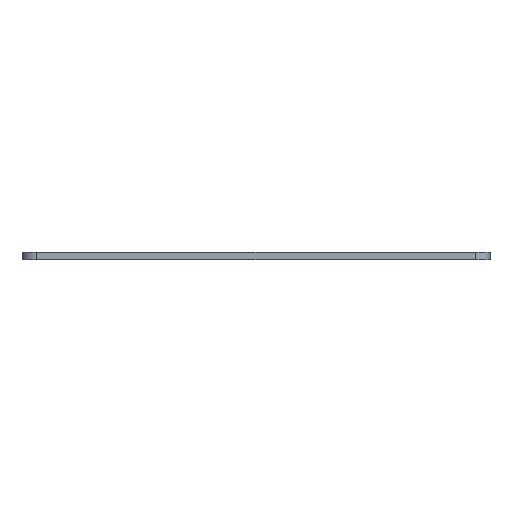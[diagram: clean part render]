
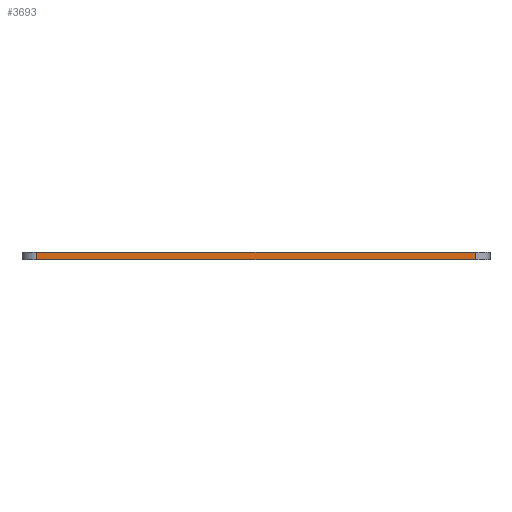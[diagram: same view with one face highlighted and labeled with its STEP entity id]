
A CAD part, front view. The second image highlights one B-rep face of the part: STEP entity #3693.
In plain terms, the highlighted planar face has unit normal (0, -1, 0).
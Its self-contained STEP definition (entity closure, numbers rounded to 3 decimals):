
#3693 = ADVANCED_FACE( '', ( #7556 ), #7557, .F. );
#7556 = FACE_OUTER_BOUND( '', #11576, .T. );
#7557 = PLANE( '', #11577 );
#11576 = EDGE_LOOP( '', ( #24619, #24620, #24621, #24622 ) );
#11577 = AXIS2_PLACEMENT_3D( '', #24623, #24624, #24625 );
#24619 = ORIENTED_EDGE( '', *, *, #25954, .T. );
#24620 = ORIENTED_EDGE( '', *, *, #30058, .F. );
#24621 = ORIENTED_EDGE( '', *, *, #26756, .T. );
#24622 = ORIENTED_EDGE( '', *, *, #30836, .T. );
#24623 = CARTESIAN_POINT( '', ( 159.003, -15.98, 0. ) );
#24624 = DIRECTION( '', ( 0., 1., 0. ) );
#24625 = DIRECTION( '', ( -1., 0., 0. ) );
#25954 = EDGE_CURVE( '', #31411, #31408, #31412, .F. );
#26756 = EDGE_CURVE( '', #32832, #32836, #32838, .T. );
#30058 = EDGE_CURVE( '', #32832, #31408, #37897, .T. );
#30836 = EDGE_CURVE( '', #32836, #31411, #38782, .T. );
#31408 = VERTEX_POINT( '', #39528 );
#31411 = VERTEX_POINT( '', #39531 );
#31412 = LINE( '', #39532, #39533 );
#32832 = VERTEX_POINT( '', #41631 );
#32836 = VERTEX_POINT( '', #41636 );
#32838 = LINE( '', #41638, #41639 );
#37897 = LINE( '', #49985, #49986 );
#38782 = LINE( '', #51464, #51465 );
#39528 = CARTESIAN_POINT( '', ( 106.442, -15.98, 0. ) );
#39531 = CARTESIAN_POINT( '', ( 106.442, -15.98, 0.85 ) );
#39532 = CARTESIAN_POINT( '', ( 106.442, -15.98, 0. ) );
#39533 = VECTOR( '', #51888, 1000. );
#41631 = CARTESIAN_POINT( '', ( 157.303, -15.98, 0. ) );
#41636 = CARTESIAN_POINT( '', ( 157.303, -15.98, 0.85 ) );
#41638 = CARTESIAN_POINT( '', ( 157.303, -15.98, 0. ) );
#41639 = VECTOR( '', #52608, 1000. );
#49985 = CARTESIAN_POINT( '', ( 159.003, -15.98, 0. ) );
#49986 = VECTOR( '', #55290, 1000. );
#51464 = CARTESIAN_POINT( '', ( 159.003, -15.98, 0.85 ) );
#51465 = VECTOR( '', #55732, 1000. );
#51888 = DIRECTION( '', ( 0., 0., 1. ) );
#52608 = DIRECTION( '', ( 0., 0., 1. ) );
#55290 = DIRECTION( '', ( -1., 0., 0. ) );
#55732 = DIRECTION( '', ( -1., 0., 0. ) );
